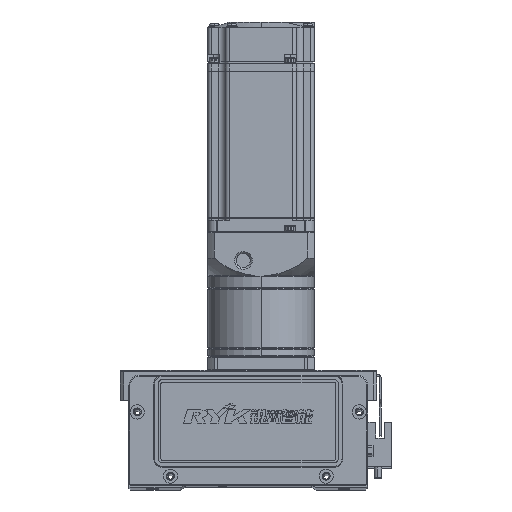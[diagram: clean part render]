
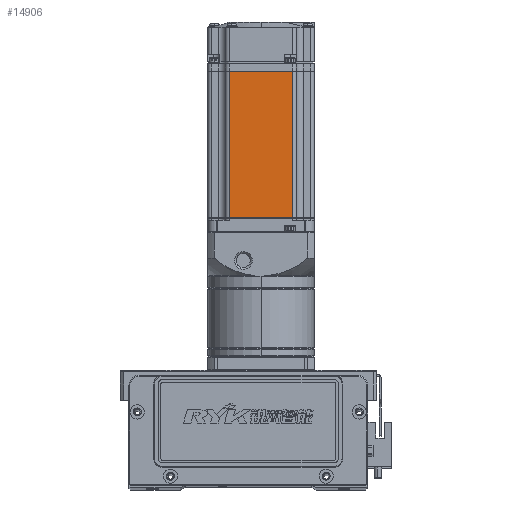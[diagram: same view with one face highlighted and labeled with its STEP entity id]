
A CAD part, top view. The second image highlights one B-rep face of the part: STEP entity #14906.
In plain terms, the highlighted planar face has unit normal (0, 0, 1).
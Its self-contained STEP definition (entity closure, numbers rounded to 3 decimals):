
#3808 = LINE ( 'NONE', #51462, #31593 ) ;
#5009 = DIRECTION ( 'NONE',  ( 0., -1., 0. ) ) ;
#5793 = VERTEX_POINT ( 'NONE', #32478 ) ;
#6395 = CARTESIAN_POINT ( 'NONE',  ( -7.75, 0., 30. ) ) ;
#7742 = ORIENTED_EDGE ( 'NONE', *, *, #35348, .T. ) ;
#7915 = VERTEX_POINT ( 'NONE', #20438 ) ;
#10621 = DIRECTION ( 'NONE',  ( 0., -1., 0. ) ) ;
#10690 = DIRECTION ( 'NONE',  ( -1., 0., 0. ) ) ;
#12400 = VECTOR ( 'NONE', #5009, 1000. ) ;
#13128 = CARTESIAN_POINT ( 'NONE',  ( -7.75, 18., 30. ) ) ;
#14906 = ADVANCED_FACE ( 'NONE', ( #62365 ), #61676, .T. ) ;
#15426 = AXIS2_PLACEMENT_3D ( 'NONE', #21038, #26146, #20384 ) ;
#16258 = ORIENTED_EDGE ( 'NONE', *, *, #25330, .T. ) ;
#18627 = VECTOR ( 'NONE', #10621, 1000. ) ;
#20384 = DIRECTION ( 'NONE',  ( 1., 0., 0. ) ) ;
#20438 = CARTESIAN_POINT ( 'NONE',  ( -7.75, -18., 30. ) ) ;
#21038 = CARTESIAN_POINT ( 'NONE',  ( -6.5, -25., 30. ) ) ;
#21781 = EDGE_CURVE ( 'NONE', #7915, #5793, #23369, .T. ) ;
#21865 = EDGE_CURVE ( 'NONE', #36485, #7915, #52712, .T. ) ;
#23369 = LINE ( 'NONE', #45200, #36801 ) ;
#25330 = EDGE_CURVE ( 'NONE', #36485, #45365, #3808, .T. ) ;
#26146 = DIRECTION ( 'NONE',  ( 0., 0., 1. ) ) ;
#30712 = ORIENTED_EDGE ( 'NONE', *, *, #21865, .F. ) ;
#31593 = VECTOR ( 'NONE', #10690, 1000. ) ;
#32478 = CARTESIAN_POINT ( 'NONE',  ( -90.45, -18., 30. ) ) ;
#35348 = EDGE_CURVE ( 'NONE', #45365, #5793, #65702, .T. ) ;
#36485 = VERTEX_POINT ( 'NONE', #13128 ) ;
#36801 = VECTOR ( 'NONE', #61266, 1000. ) ;
#39895 = CARTESIAN_POINT ( 'NONE',  ( -90.45, 18., 30. ) ) ;
#45200 = CARTESIAN_POINT ( 'NONE',  ( -6.5, -18., 30. ) ) ;
#45365 = VERTEX_POINT ( 'NONE', #39895 ) ;
#51462 = CARTESIAN_POINT ( 'NONE',  ( -6.5, 18., 30. ) ) ;
#52712 = LINE ( 'NONE', #6395, #18627 ) ;
#59590 = ORIENTED_EDGE ( 'NONE', *, *, #21781, .F. ) ;
#60755 = CARTESIAN_POINT ( 'NONE',  ( -90.45, 0., 30. ) ) ;
#61266 = DIRECTION ( 'NONE',  ( -1., 0., 0. ) ) ;
#61676 = PLANE ( 'NONE',  #15426 ) ;
#62365 = FACE_OUTER_BOUND ( 'NONE', #64428, .T. ) ;
#64428 = EDGE_LOOP ( 'NONE', ( #30712, #16258, #7742, #59590 ) ) ;
#65702 = LINE ( 'NONE', #60755, #12400 ) ;
